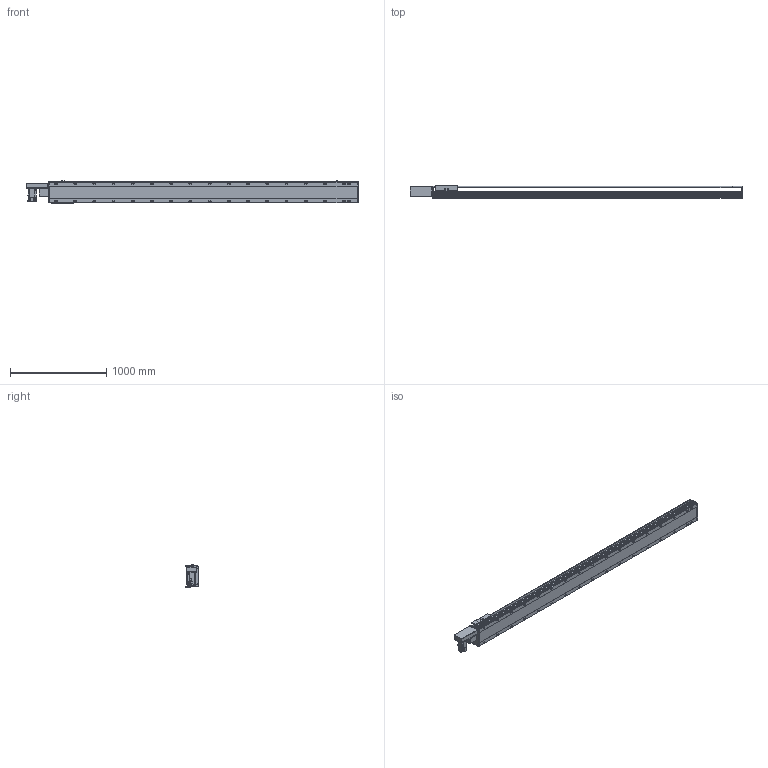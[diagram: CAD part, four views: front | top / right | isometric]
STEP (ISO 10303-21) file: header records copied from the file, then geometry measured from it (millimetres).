
FILE_DESCRIPTION(/* description */ ('STEP AP214'),/* implementation_level */ '2;1');
FILE_NAME(/* name */ 'PBS220-P40-S2850-R-T75-C1-N(0)',/* time_stamp */ '2022-06-11T10:03:36+02:00',/* author */ ('License CC BY-ND 4.0'),/* organization */ ('CADENAS'),/* preprocessor_version */ 'ST-DEVELOPER v18.102',/* originating_system */ 'PARTsolutions',/* authorisation */ ' ');
FILE_SCHEMA (('AUTOMOTIVE_DESIGN {1 0 10303 214 3 1 1}'));
Length unit declared in the file: millimetre
Products named in the file (7): PBS220-P40-S2850-R-T75-C1-N(0); PBS220_sensor; PBS220_plant; PBS220_sliser; T75-p1; PBS220T-R_motors; PBS220-S2850()_body
Assembly tree (8 placements, depth 2):
  PBS220-P40-S2850-R-T75-C1-N(0)
    PBS220_sensor  x3
    PBS220_plant
    PBS220_sliser
    T75-p1
    PBS220T-R_motors
    PBS220-S2850()_body
Bounding box: 3456 x 134 x 238.5 mm (x, y, z)
Volume: 46366034.8 mm3; surface area: 4222438.8 mm2
Topology: 8 solids, 8 shells, 1022 faces, 2648 edges, 1720 vertices
Faces by surface type: plane 634, cylinder 330, cone 58
Full cylindrical faces by diameter (mm): 2.013 x4, 4.5 x14, 4.917 x4, 6 x7, 6.647 x8, 8 x10, 8.376 x34, 8.5 x34, 10 x6, 14 x34, 38 x2, 40 x1, 70 x1
Entity records: 28437 total; most frequent: CARTESIAN_POINT 5086, DIRECTION 4941, ORIENTED_EDGE 4430, EDGE_CURVE 2215, AXIS2_PLACEMENT_3D 1789, VERTEX_POINT 1560, LINE 1363, VECTOR 1363
